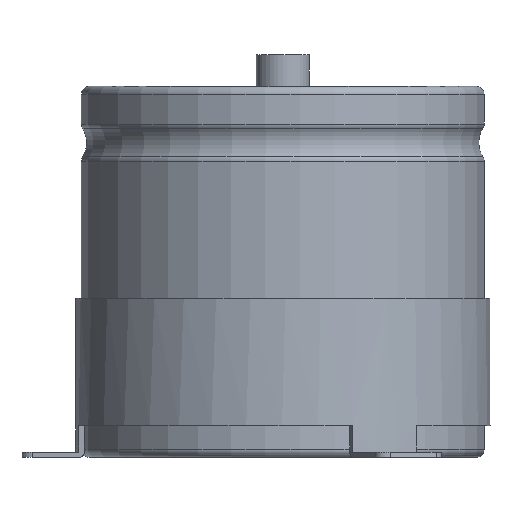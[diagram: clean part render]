
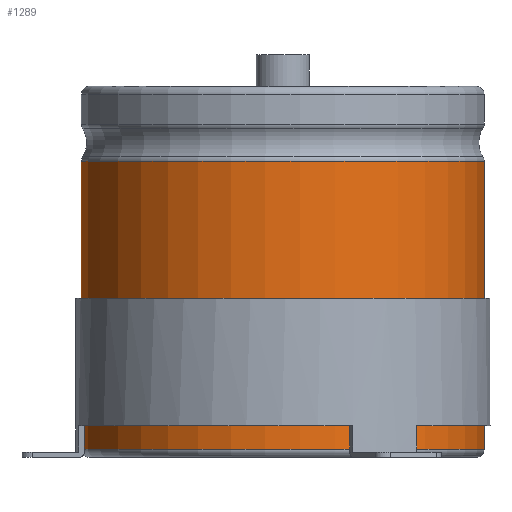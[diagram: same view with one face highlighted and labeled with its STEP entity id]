
A CAD part, front view. The second image highlights one B-rep face of the part: STEP entity #1289.
In plain terms, the highlighted cylindrical face has radius 38.1 mm (diameter 76.2 mm), a partial arc.
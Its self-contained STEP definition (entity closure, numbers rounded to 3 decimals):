
#233=LINE('',#6601,#447);
#234=LINE('',#6605,#448);
#447=VECTOR('',#5224,1.);
#448=VECTOR('',#5227,1.);
#695=FACE_OUTER_BOUND('',#1741,.T.);
#1289=ADVANCED_FACE('',(#695),#1519,.T.);
#1519=CYLINDRICAL_SURFACE('',#4585,38.1);
#1741=EDGE_LOOP('',(#2147,#2148,#2149,#2150));
#2147=ORIENTED_EDGE('',*,*,#3702,.T.);
#2148=ORIENTED_EDGE('',*,*,#3703,.T.);
#2149=ORIENTED_EDGE('',*,*,#3704,.F.);
#2150=ORIENTED_EDGE('',*,*,#3705,.F.);
#3274=VERTEX_POINT('',#6594);
#3276=VERTEX_POINT('',#6598);
#3277=VERTEX_POINT('',#6602);
#3278=VERTEX_POINT('',#6604);
#3702=EDGE_CURVE('',#3274,#3276,#4267,.T.);
#3703=EDGE_CURVE('',#3276,#3277,#233,.T.);
#3704=EDGE_CURVE('',#3278,#3277,#4268,.T.);
#3705=EDGE_CURVE('',#3274,#3278,#234,.T.);
#4267=CIRCLE('',#4582,38.1);
#4268=CIRCLE('',#4584,38.1);
#4582=AXIS2_PLACEMENT_3D('',#6599,#5220,#5221);
#4584=AXIS2_PLACEMENT_3D('',#6603,#5225,#5226);
#4585=AXIS2_PLACEMENT_3D('',#6606,#5228,#5229);
#5220=DIRECTION('',(0.,0.,-1.));
#5221=DIRECTION('',(0.,1.,0.));
#5224=DIRECTION('',(0.,0.,-1.));
#5225=DIRECTION('',(0.,0.,-1.));
#5226=DIRECTION('',(0.,1.,0.));
#5227=DIRECTION('',(0.,0.,-1.));
#5228=DIRECTION('',(0.,0.,-1.));
#5229=DIRECTION('',(0.,1.,0.));
#6594=CARTESIAN_POINT('',(3.983,37.891,55.9));
#6598=CARTESIAN_POINT('',(-3.983,37.891,55.9));
#6599=CARTESIAN_POINT('',(0.,0.,55.9));
#6601=CARTESIAN_POINT('',(-3.983,37.891,55.9));
#6602=CARTESIAN_POINT('',(-3.983,37.891,1.5));
#6603=CARTESIAN_POINT('',(0.,0.,1.5));
#6604=CARTESIAN_POINT('',(3.983,37.891,1.5));
#6605=CARTESIAN_POINT('',(3.983,37.891,55.9));
#6606=CARTESIAN_POINT('',(0.,0.,0.));
